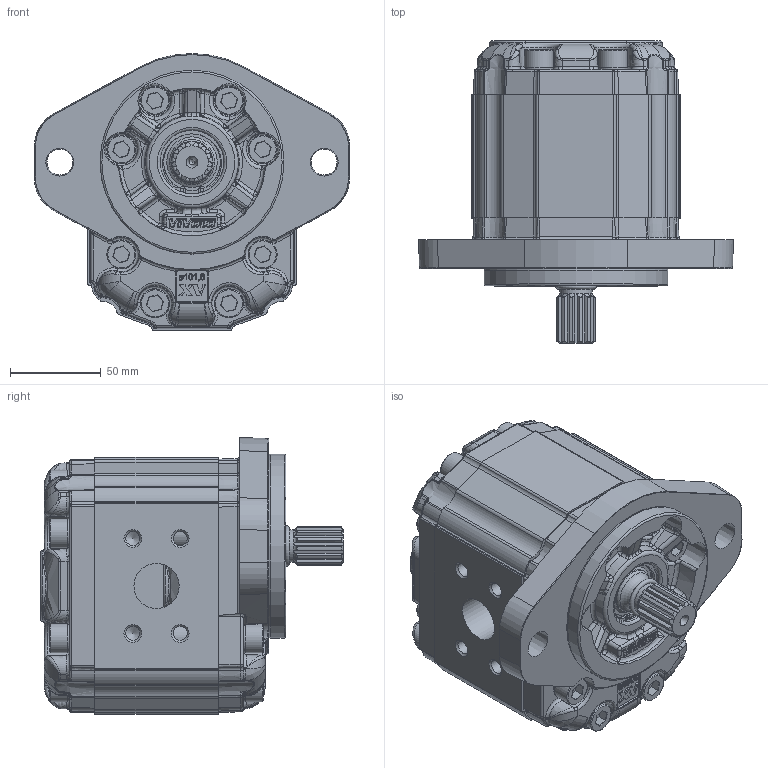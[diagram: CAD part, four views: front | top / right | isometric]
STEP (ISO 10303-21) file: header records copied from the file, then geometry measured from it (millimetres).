
FILE_DESCRIPTION( ( 'Unknown' ), '1' );
FILE_NAME( 'P:/montaggio_easy/output/STP/X3P6832INNA.stp', 'Unknown', ( 'Unknown' ), ( 'Unknown' ), 'PSStep 14.0', 'Unknown', ' ' );
FILE_SCHEMA( ( 'AUTOMOTIVE_DESIGN { 1 0 10303 214 1 1 1 1 }' ) );
Length unit declared in the file: millimetre
Products named in the file (5): Assem1; X3P32; 3I; X3NNH68; XP331-A
Bounding box: 174 x 167.2 x 153 mm (x, y, z)
Volume: 3610163.2 mm3; surface area: 398317.6 mm2
Topology: 8 solids, 42 shells, 6122 faces, 15848 edges, 9994 vertices
Faces by surface type: bspline 2478, plane 1752, cylinder 1308, cone 208, torus 184, extrusion 104, revolution 54, sphere 32, offset 2
Full cylindrical faces by diameter (mm): 2 x4, 7.805 x16, 10 x32, 15.8 x32, 16 x32, 18 x4, 24.98 x2, 25 x8, 25.968 x2, 28.16 x2, 31.293 x2, 32.742 x2, 34.956 x2, 35 x2, 35.2 x2, 37 x2, 101.6 x2
Entity records: 170868 total; most frequent: CARTESIAN_POINT 87740, ORIENTED_EDGE 15346, EDGE_CURVE 7673, DIRECTION 6827, VERTEX_POINT 4930, B_SPLINE_CURVE_WITH_KNOTS 4526, EDGE_LOOP 3342, FACE_OUTER_BOUND 3163
